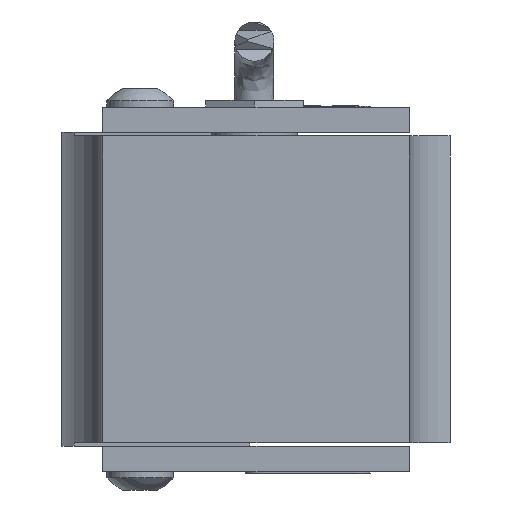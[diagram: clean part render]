
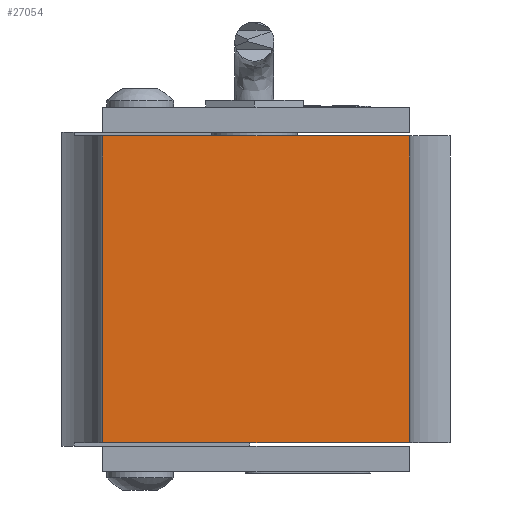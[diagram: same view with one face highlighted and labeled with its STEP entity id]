
A CAD part, left-side view. The second image highlights one B-rep face of the part: STEP entity #27054.
In plain terms, the highlighted planar face has unit normal (-1, 0, 0).
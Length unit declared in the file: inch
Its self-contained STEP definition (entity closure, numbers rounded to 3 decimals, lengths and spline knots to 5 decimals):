
#190 = ORIENTED_EDGE ( 'NONE', *, *, #16423, .T. ) ;
#1617 = DIRECTION ( 'NONE',  ( 1., 0., 0. ) ) ;
#2495 = EDGE_CURVE ( 'NONE', #12805, #40957, #39508, .T. ) ;
#4083 = DIRECTION ( 'NONE',  ( 0., 0., 1. ) ) ;
#5561 = VECTOR ( 'NONE', #46671, 39.37008 ) ;
#6163 = VERTEX_POINT ( 'NONE', #35140 ) ;
#6347 = EDGE_LOOP ( 'NONE', ( #190, #45150, #30161, #28778 ) ) ;
#10020 = VECTOR ( 'NONE', #43771, 39.37008 ) ;
#12636 = PLANE ( 'NONE',  #25529 ) ;
#12805 = VERTEX_POINT ( 'NONE', #40054 ) ;
#12835 = CARTESIAN_POINT ( 'NONE',  ( -1.4, 0.49, -0.49 ) ) ;
#16423 = EDGE_CURVE ( 'NONE', #27949, #40957, #35054, .T. ) ;
#20792 = CARTESIAN_POINT ( 'NONE',  ( -1.4, -0.49, 0.49 ) ) ;
#21409 = VECTOR ( 'NONE', #4083, 39.37008 ) ;
#21860 = EDGE_CURVE ( 'NONE', #6163, #12805, #31250, .T. ) ;
#23769 = CARTESIAN_POINT ( 'NONE',  ( -1.4, 0.49, 0.49 ) ) ;
#25529 = AXIS2_PLACEMENT_3D ( 'NONE', #23769, #1617, #27495 ) ;
#27054 = ADVANCED_FACE ( 'NONE', ( #38266 ), #12636, .F. ) ;
#27495 = DIRECTION ( 'NONE',  ( 0., 0., -1. ) ) ;
#27949 = VERTEX_POINT ( 'NONE', #32394 ) ;
#28778 = ORIENTED_EDGE ( 'NONE', *, *, #45549, .F. ) ;
#30161 = ORIENTED_EDGE ( 'NONE', *, *, #21860, .F. ) ;
#31059 = VECTOR ( 'NONE', #34973, 39.37008 ) ;
#31250 = LINE ( 'NONE', #44666, #21409 ) ;
#32394 = CARTESIAN_POINT ( 'NONE',  ( -1.4, -0.49, -0.49 ) ) ;
#34973 = DIRECTION ( 'NONE',  ( 0., 1., 0. ) ) ;
#35054 = LINE ( 'NONE', #20792, #5561 ) ;
#35140 = CARTESIAN_POINT ( 'NONE',  ( -1.4, 0.49, -0.49 ) ) ;
#38133 = CARTESIAN_POINT ( 'NONE',  ( -1.4, -0.49, 0.49 ) ) ;
#38266 = FACE_OUTER_BOUND ( 'NONE', #6347, .T. ) ;
#39508 = LINE ( 'NONE', #43473, #10020 ) ;
#40054 = CARTESIAN_POINT ( 'NONE',  ( -1.4, 0.49, 0.49 ) ) ;
#40957 = VERTEX_POINT ( 'NONE', #38133 ) ;
#42069 = LINE ( 'NONE', #12835, #31059 ) ;
#43473 = CARTESIAN_POINT ( 'NONE',  ( -1.4, 0.75, 0.49 ) ) ;
#43771 = DIRECTION ( 'NONE',  ( 0., -1., 0. ) ) ;
#44666 = CARTESIAN_POINT ( 'NONE',  ( -1.4, 0.49, 0.49 ) ) ;
#45150 = ORIENTED_EDGE ( 'NONE', *, *, #2495, .F. ) ;
#45549 = EDGE_CURVE ( 'NONE', #27949, #6163, #42069, .T. ) ;
#46671 = DIRECTION ( 'NONE',  ( 0., 0., 1. ) ) ;
